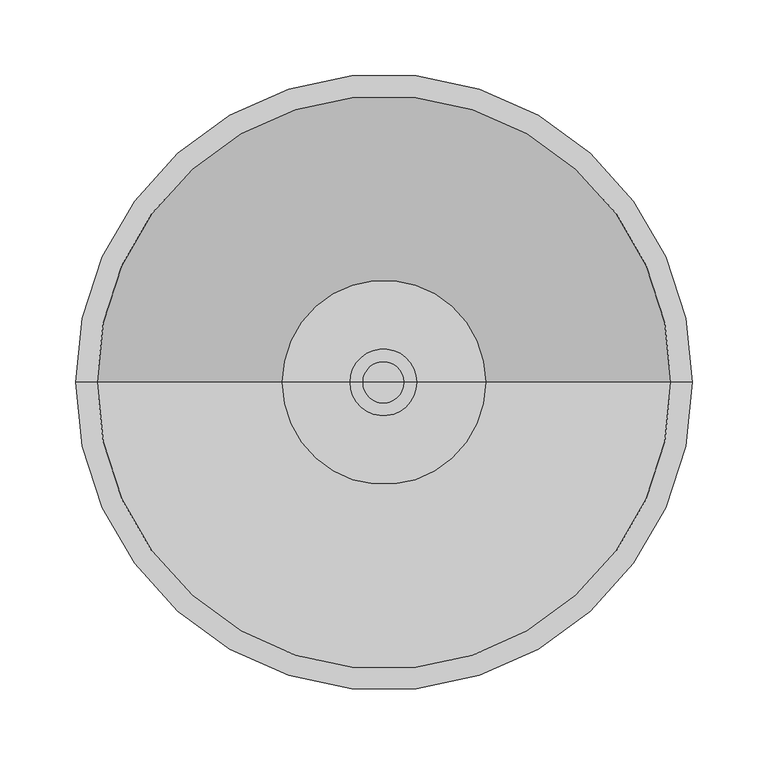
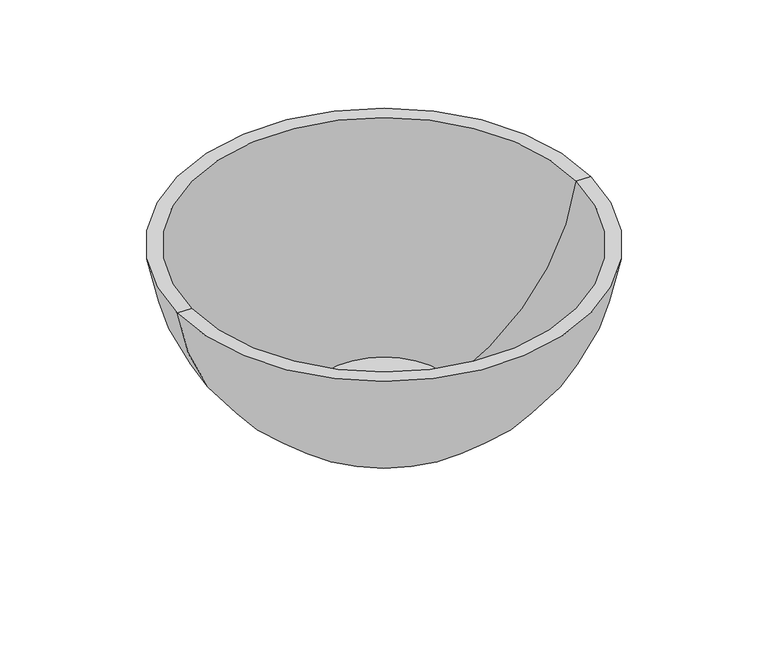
"""IFC4 building model written with IfcOpenShell, lengths in millimetres: flow terminal geometry, Ovalin sobreponer maia - vitromex : Accesorios_baño."""

from ifc_helpers import new_model, si_unit, point, frame, origin, place, context, project, spatial, polyline, circle_curve, ellipse_curve, trimmed, source, transform, mapped, element, save
from ifc_brep_helpers import plane_surface, cylinder_surface, revolved_surface, advanced_brep


def flow_terminal_a2814962(model_context):
    return source(origin(), model_context, "Body", "AdvancedBrep", [
        advanced_brep(
        [(13.7379063, 0.0, 765.0), (-13.7379063, 0.0, 765.0), (-22.0, 0.0, 765.0), (22.0, 0.0, 765.0), (13.7379063, 0.0, 753.7247134), (-13.7379063, 0.0, 753.7247134), (0.0, 0.0, 753.7247134), (17.0, 0.0, 750.0), (-17.0, 0.0, 750.0), (0.0, 0.0, 750.0), (17.0, 0.0, 763.464751), (-17.0, 0.0, 763.464751), (22.0, 0.0, 763.464751), (-22.0, 0.0, 763.464751)],
        [
            (0, 1, circle_curve(frame((0.0, 0.0, 765.0), z_axis=(0.0, 0.0, -1.0), x_axis=(-1.0, 0.0, 0.0)), 13.7379063)),
            (1, 2),
            (2, 3, circle_curve(frame((0.0, 0.0, 765.0), z_axis=(0.0, 0.0, 1.0), x_axis=(-1.0, 0.0, 0.0)), 22.0)),
            (3, 0),
            (1, 0, circle_curve(frame((0.0, 0.0, 765.0), z_axis=(0.0, 0.0, -1.0), x_axis=(-1.0, 0.0, 0.0)), 13.7379063)),
            (3, 2, circle_curve(frame((0.0, 0.0, 765.0), z_axis=(0.0, 0.0, 1.0), x_axis=(-1.0, 0.0, 0.0)), 22.0)),
            (4, 5, circle_curve(frame((0.0, 0.0, 753.7247134), z_axis=(0.0, 0.0, -1.0), x_axis=(-1.0, 0.0, 0.0)), 13.7379063)),
            (5, 1),
            (0, 4),
            (5, 4, circle_curve(frame((0.0, 0.0, 753.7247134), z_axis=(0.0, 0.0, -1.0), x_axis=(-1.0, 0.0, 0.0)), 13.7379063)),
            (6, 5),
            (4, 6),
            (7, 8, circle_curve(frame((0.0, 0.0, 750.0), z_axis=(0.0, 0.0, -1.0), x_axis=(-1.0, 0.0, 0.0)), 17.0)),
            (8, 9),
            (9, 7),
            (8, 7, circle_curve(frame((0.0, 0.0, 750.0), z_axis=(0.0, 0.0, -1.0), x_axis=(-1.0, 0.0, 0.0)), 17.0)),
            (10, 11, circle_curve(frame((0.0, 0.0, 763.464751), z_axis=(0.0, 0.0, -1.0), x_axis=(-1.0, 0.0, 0.0)), 17.0)),
            (11, 8),
            (7, 10),
            (11, 10, circle_curve(frame((0.0, 0.0, 763.464751), z_axis=(0.0, 0.0, -1.0), x_axis=(-1.0, 0.0, 0.0)), 17.0)),
            (12, 13, circle_curve(frame((0.0, 0.0, 763.464751), z_axis=(0.0, 0.0, -1.0), x_axis=(-1.0, 0.0, 0.0)), 22.0)),
            (13, 11),
            (10, 12),
            (13, 12, circle_curve(frame((0.0, 0.0, 763.464751), z_axis=(0.0, 0.0, -1.0), x_axis=(-1.0, 0.0, 0.0)), 22.0)),
            (2, 13),
            (12, 3),
        ],
        [
            plane_surface(frame((0.0, 0.0, 765.0), z_axis=(0.0, 0.0, 1.0), x_axis=(-1.0, 0.0, 0.0))),
            revolved_surface(polyline([(-13.7379063, 0.0, 765.0), (-13.7379063, 0.0, 753.7247134)]), (0.0, 0.0, 743.0083255), (0.0, 0.0, 1.0)),
            plane_surface(frame((0.0, 0.0, 753.7247134), z_axis=(0.0, 0.0, 1.0), x_axis=(-1.0, 0.0, 0.0))),
            plane_surface(frame((0.0, 0.0, 750.0), z_axis=(0.0, 0.0, -1.0), x_axis=(-1.0, 0.0, 0.0))),
            cylinder_surface(frame((0.0, 0.0, 743.0083255), z_axis=(0.0, 0.0, 1.0), x_axis=(-1.0, 0.0, 0.0)), 17.0),
            plane_surface(frame((0.0, 0.0, 763.464751), z_axis=(0.0, 0.0, -1.0), x_axis=(-1.0, 0.0, 0.0))),
            cylinder_surface(frame((0.0, 0.0, 743.0083255), z_axis=(0.0, 0.0, 1.0), x_axis=(-1.0, 0.0, 0.0)), 22.0),
        ],
        [
            (0, [[1, 2, 3, 4]]),
            (0, [[5, -4, 6, -2]]),
            (1, [[7, 8, -1, 9]]),
            (1, [[10, -9, -5, -8]]),
            (2, [[11, -7, 12]]),
            (2, [[-12, -10, -11]]),
            (3, [[13, 14, 15]]),
            (3, [[16, -15, -14]]),
            (4, [[17, 18, -13, 19]]),
            (4, [[20, -19, -16, -18]]),
            (5, [[21, 22, -17, 23]]),
            (5, [[24, -23, -20, -22]]),
            (6, [[-3, 25, -21, 26]]),
            (6, [[-6, -26, -24, -25]]),
        ],
    ),
        advanced_brep(
        [(203.8636466, -0.0320197, 928.0), (-203.0, -0.0320197, 928.0), (-70.0, -0.0320197, 750.0), (70.8636466, -0.0320197, 750.0), (189.7432964, -0.0320197, 928.0), (-188.8796498, -0.0320197, 928.0), (67.8749854, -0.0320197, 764.0), (-67.0113388, -0.0320197, 764.0), (17.4318233, -0.0320197, 764.0), (-16.5681767, -0.0320197, 764.0), (17.4318233, -0.0320197, 750.0), (-16.5681767, -0.0320197, 750.0)],
        [
            (0, 1, circle_curve(frame((0.4318233, -0.0320197, 928.0), z_axis=(0.0, 0.0, -1.0), x_axis=(-1.0, 0.0, 0.0)), 203.4318233)),
            (1, 2, circle_curve(frame((20.6900274, -0.0320197, 956.4509755), z_axis=(0.0, -1.0, 0.0), x_axis=(-1.0, 0.0, 0.0)), 225.4920982)),
            (2, 3, circle_curve(frame((0.4318233, -0.0320197, 750.0), z_axis=(0.0, 0.0, 1.0), x_axis=(-1.0, 0.0, 0.0)), 70.4318233)),
            (3, 0, circle_curve(frame((-19.8263808, -0.0320197, 956.4509755), z_axis=(0.0, -1.0, 0.0), x_axis=(1.0, 0.0, 0.0)), 225.4920982)),
            (1, 0, circle_curve(frame((0.4318233, -0.0320197, 928.0), z_axis=(0.0, 0.0, -1.0), x_axis=(-1.0, 0.0, 0.0)), 203.4318233)),
            (3, 2, circle_curve(frame((0.4318233, -0.0320197, 750.0), z_axis=(0.0, 0.0, 1.0), x_axis=(-1.0, 0.0, 0.0)), 70.4318233)),
            (4, 5, circle_curve(frame((0.4318233, -0.0320197, 928.0), z_axis=(0.0, 0.0, -1.0), x_axis=(-1.0, 0.0, 0.0)), 189.3114731)),
            (5, 1),
            (0, 4),
            (5, 4, circle_curve(frame((0.4318233, -0.0320197, 928.0), z_axis=(0.0, 0.0, -1.0), x_axis=(-1.0, 0.0, 0.0)), 189.3114731)),
            (6, 7, circle_curve(frame((0.4318233, -0.0320197, 764.0), z_axis=(0.0, 0.0, -1.0), x_axis=(-1.0, 0.0, 0.0)), 67.4431621)),
            (7, 5, circle_curve(frame((20.6900274, -0.0320197, 956.4509755), z_axis=(0.0, 1.0, 0.0), x_axis=(-1.0, 0.0, 0.0)), 211.4920982)),
            (4, 6, circle_curve(frame((-19.8263808, -0.0320197, 956.4509755), z_axis=(0.0, 1.0, 0.0), x_axis=(1.0, 0.0, 0.0)), 211.4920982)),
            (7, 6, circle_curve(frame((0.4318233, -0.0320197, 764.0), z_axis=(0.0, 0.0, -1.0), x_axis=(-1.0, 0.0, 0.0)), 67.4431621)),
            (8, 9, circle_curve(frame((0.4318233, -0.0320197, 764.0), z_axis=(0.0, 0.0, -1.0), x_axis=(-1.0, 0.0, 0.0)), 17.0)),
            (9, 7),
            (6, 8),
            (9, 8, circle_curve(frame((0.4318233, -0.0320197, 764.0), z_axis=(0.0, 0.0, -1.0), x_axis=(-1.0, 0.0, 0.0)), 17.0)),
            (10, 11, circle_curve(frame((0.4318233, -0.0320197, 750.0), z_axis=(0.0, 0.0, -1.0), x_axis=(-1.0, 0.0, 0.0)), 17.0)),
            (11, 9),
            (8, 10),
            (11, 10, circle_curve(frame((0.4318233, -0.0320197, 750.0), z_axis=(0.0, 0.0, -1.0), x_axis=(-1.0, 0.0, 0.0)), 17.0)),
            (2, 11),
            (10, 3),
        ],
        [
            revolved_surface(trimmed(ellipse_curve(frame((20.6900274, -0.0320197, 956.4509755), z_axis=(0.0, 1.0, 0.0), x_axis=(-1.0, 0.0, 0.0)), 225.4920982, 225.4920982), [point((-70.0, -0.0320197, 750.0))], [point((-203.0, -0.0320197, 928.0))], True, "CARTESIAN"), (0.4318233, -0.0320197, 700.0), (0.0, 0.0, 1.0)),
            plane_surface(frame((0.4318233, -0.0320197, 928.0), z_axis=(0.0, 0.0, 1.0), x_axis=(-1.0, 0.0, 0.0))),
            revolved_surface(trimmed(ellipse_curve(frame((20.6900274, -0.0320197, 956.4509755), z_axis=(0.0, -1.0, 0.0), x_axis=(-1.0, 0.0, 0.0)), 211.4920982, 211.4920982), [point((-188.8796498, -0.0320197, 928.0))], [point((-67.0113388, -0.0320197, 764.0))], True, "CARTESIAN"), (0.4318233, -0.0320197, 700.0), (0.0, 0.0, 1.0)),
            plane_surface(frame((0.4318233, -0.0320197, 764.0), z_axis=(0.0, 0.0, 1.0), x_axis=(-1.0, 0.0, 0.0))),
            revolved_surface(polyline([(-16.5681767, -0.0320197, 764.0), (-16.5681767, -0.0320197, 750.0)]), (0.4318233, -0.0320197, 700.0), (0.0, 0.0, 1.0)),
            plane_surface(frame((0.4318233, -0.0320197, 750.0), z_axis=(0.0, 0.0, -1.0), x_axis=(-1.0, 0.0, 0.0))),
        ],
        [
            (0, [[1, 2, 3, 4]]),
            (0, [[5, -4, 6, -2]]),
            (1, [[7, 8, -1, 9]]),
            (1, [[10, -9, -5, -8]]),
            (2, [[11, 12, -7, 13]]),
            (2, [[14, -13, -10, -12]]),
            (3, [[15, 16, -11, 17]]),
            (3, [[18, -17, -14, -16]]),
            (4, [[19, 20, -15, 21]]),
            (4, [[22, -21, -18, -20]]),
            (5, [[-3, 23, -19, 24]]),
            (5, [[-6, -24, -22, -23]]),
        ],
    ),
    ])


if __name__ == "__main__":
    model = new_model("IFC4")
    model_context = context("Model", 3, world=origin())
    ifc_project = project(units=[si_unit("LENGTHUNIT", "METRE", prefix="MILLI")], contexts=[model_context])
    site = spatial("IfcSite", under=ifc_project)
    building = spatial("IfcBuilding", under=site)
    placement = place(None, origin())
    flow_terminal_shape = flow_terminal_a2814962(model_context)
    element("IfcFlowTerminal", 1, ObjectType="Ovalin sobreponer maia - vitromex : Accesorios_baño", at=placement, inside=building, context=model_context, shape_type="MappedRepresentation", body=[
        mapped(flow_terminal_shape, transform((0.0, 0.0, 0.0), x_axis=(1.0, 0.0, 0.0), y_axis=(0.0, 1.0, 0.0), z_axis=(0.0, 0.0, 1.0))),
    ])
    save(model, "model.ifc")
